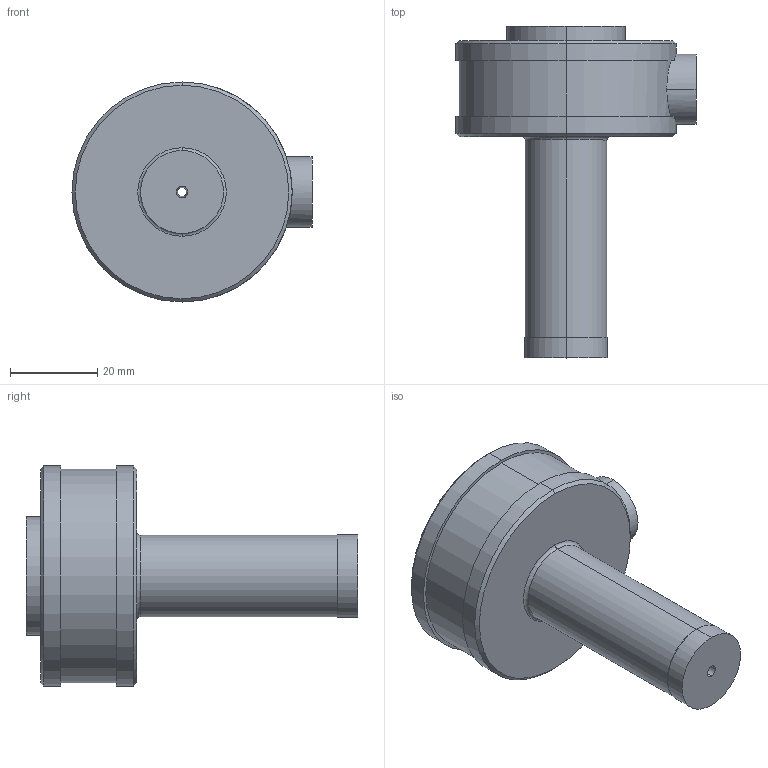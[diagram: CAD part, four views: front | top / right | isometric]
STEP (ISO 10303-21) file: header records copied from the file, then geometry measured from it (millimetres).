
FILE_DESCRIPTION (( 'STEP AP203' ), '1' );
FILE_NAME ('SB030009.STEP', '2009-05-05T18:27:00', ( 'Frank J. Eigler' ), ( 'DME' ), 'SwSTEP 2.0', 'SolidWorks 2009', '' );
FILE_SCHEMA (( 'CONFIG_CONTROL_DESIGN' ));
Length unit declared in the file: inch
Products named in the file (1): SB030009
Bounding box: 55.12 x 76.2 x 50.55 mm (x, y, z)
Volume: 58098.8 mm3; surface area: 12158.3 mm2
Topology: 1 solids, 1 shells, 37 faces, 92 edges, 58 vertices
Faces by surface type: cylinder 17, plane 8, cone 6, sphere 4, torus 2
Entity records: 1277 total; most frequent: CARTESIAN_POINT 278, DIRECTION 218, ORIENTED_EDGE 180, AXIS2_PLACEMENT_3D 96, EDGE_CURVE 90, VERTEX_POINT 58, CIRCLE 58, EDGE_LOOP 42
